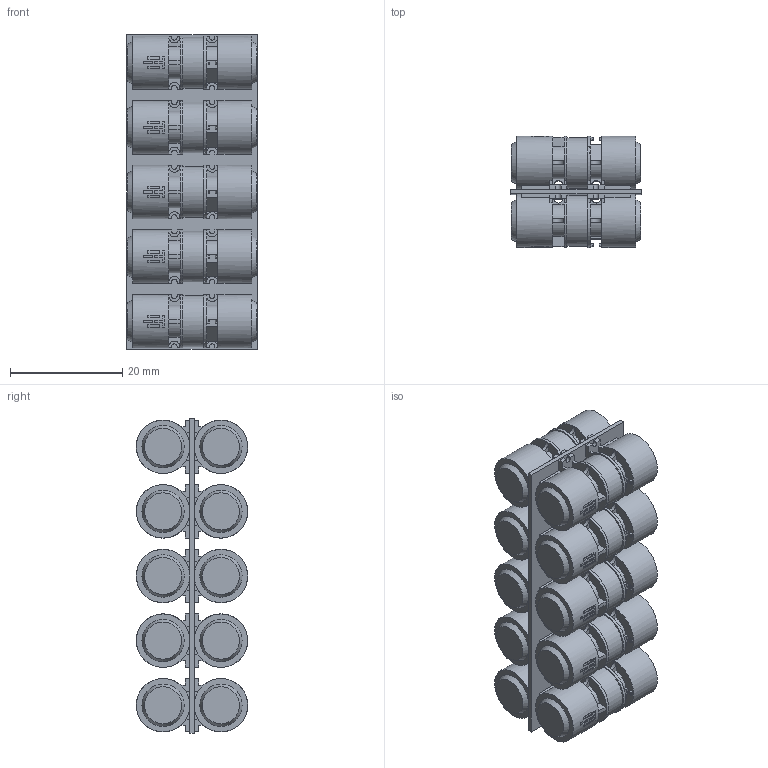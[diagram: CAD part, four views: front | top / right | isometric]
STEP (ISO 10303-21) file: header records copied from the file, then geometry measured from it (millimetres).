
FILE_DESCRIPTION(/* description */ (''),/* implementation_level */ '2;1');
FILE_NAME(/* name */ '10x drake (5x2).step',/* time_stamp */ '2023-06-07T13:54:22-04:00',/* author */ (''),/* organization */ (''),/* preprocessor_version */ 'ST-DEVELOPER v19.2',/* originating_system */ 'Autodesk Translation Framework v12.6.0.85',/* authorisation */ '');
FILE_SCHEMA (('AUTOMOTIVE_DESIGN { 1 0 10303 214 3 1 1 }'));
Length unit declared in the file: millimetre
Products named in the file (13): 10x drake (5x2); TacHammer - Drake Volume; Component1; TacHammer - Drake Volume_1; TacHammer - Drake Volume_2; TacHammer - Drake Volume_3; TacHammer - Drake Volume_4; TacHammer - Drake Volume_5; TacHammer - Drake Volume_6; TacHammer - Drake Volume_7; TacHammer - Drake Volume_8; TacHammer - Drake Volume_9; Volume_Env
Assembly tree (21 placements, depth 3):
  10x drake (5x2)
    TacHammer - Drake Volume
      Volume_Env
    Component1
    TacHammer - Drake Volume_1
      Volume_Env
    TacHammer - Drake Volume_2
      Volume_Env
    TacHammer - Drake Volume_3
      Volume_Env
    TacHammer - Drake Volume_4
      Volume_Env
    TacHammer - Drake Volume_5
      Volume_Env
    TacHammer - Drake Volume_6
      Volume_Env
    TacHammer - Drake Volume_7
      Volume_Env
    TacHammer - Drake Volume_8
      Volume_Env
    TacHammer - Drake Volume_9
      Volume_Env
Bounding box: 23.2 x 19.8 x 56 mm (x, y, z)
Volume: 15238.4 mm3; surface area: 13530.7 mm2
Topology: 11 solids, 11 shells, 1766 faces, 4842 edges, 3128 vertices
Faces by surface type: plane 1236, cylinder 490, cone 20, torus 20
Full cylindrical faces by diameter (mm): 9 x10, 9.5 x20
Entity records: 6136 total; most frequent: DIRECTION 1057, CARTESIAN_POINT 1050, ORIENTED_EDGE 990, EDGE_CURVE 495, LINE 363, VECTOR 363, AXIS2_PLACEMENT_3D 347, VERTEX_POINT 320
